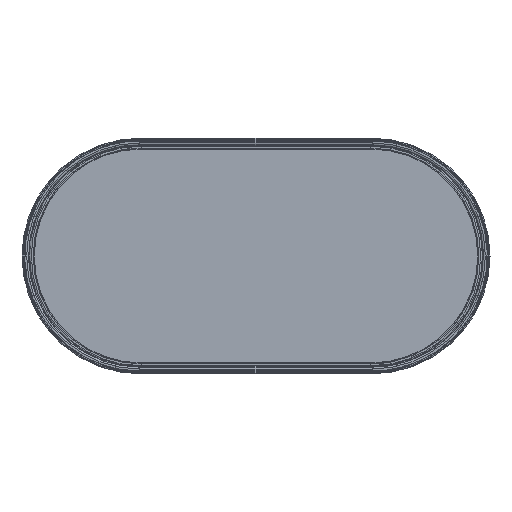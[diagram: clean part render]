
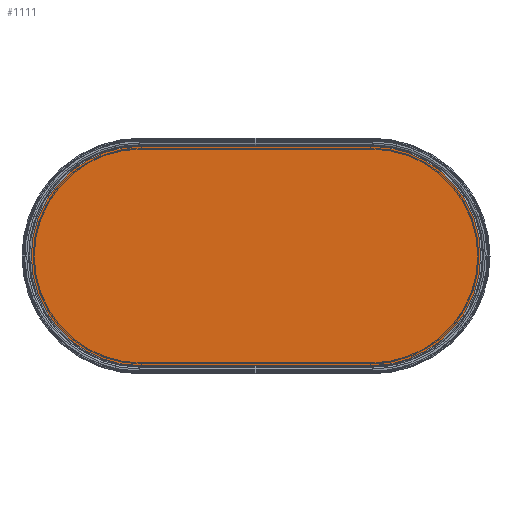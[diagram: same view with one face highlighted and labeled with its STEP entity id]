
A CAD part, front view. The second image highlights one B-rep face of the part: STEP entity #1111.
In plain terms, the highlighted planar face has unit normal (0, -1, 0).
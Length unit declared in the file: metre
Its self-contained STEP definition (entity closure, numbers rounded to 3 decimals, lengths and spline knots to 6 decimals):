
#1111 = ADVANCED_FACE( '', ( #1310 ), #1311, .F. );
#1310 = FACE_OUTER_BOUND( '', #1677, .T. );
#1311 = PLANE( '', #1678 );
#1677 = EDGE_LOOP( '', ( #2333, #2334, #2335, #2336 ) );
#1678 = AXIS2_PLACEMENT_3D( '', #2337, #2338, #2339 );
#2333 = ORIENTED_EDGE( '', *, *, #3154, .F. );
#2334 = ORIENTED_EDGE( '', *, *, #3153, .F. );
#2335 = ORIENTED_EDGE( '', *, *, #3155, .F. );
#2336 = ORIENTED_EDGE( '', *, *, #3156, .F. );
#2337 = CARTESIAN_POINT( '', ( 45.874527, 9.788641, 0.00002 ) );
#2338 = DIRECTION( '', ( 0., 1., 0. ) );
#2339 = DIRECTION( '', ( 0., 0., 1. ) );
#3153 = EDGE_CURVE( '', #3485, #3480, #3487, .T. );
#3154 = EDGE_CURVE( '', #3480, #3488, #3489, .T. );
#3155 = EDGE_CURVE( '', #3490, #3485, #3491, .T. );
#3156 = EDGE_CURVE( '', #3488, #3490, #3492, .T. );
#3480 = VERTEX_POINT( '', #3988 );
#3485 = VERTEX_POINT( '', #3993 );
#3487 = CIRCLE( '', #3995, 0.113324 );
#3488 = VERTEX_POINT( '', #3996 );
#3489 = LINE( '', #3997, #3998 );
#3490 = VERTEX_POINT( '', #3999 );
#3491 = LINE( '', #4000, #4001 );
#3492 = CIRCLE( '', #4002, 0.113324 );
#3988 = CARTESIAN_POINT( '', ( 45.755967, 9.788641, 0.113343 ) );
#3993 = CARTESIAN_POINT( '', ( 45.755967, 9.788641, -0.113304 ) );
#3995 = AXIS2_PLACEMENT_3D( '', #4587, #4588, #4589 );
#3996 = CARTESIAN_POINT( '', ( 45.993087, 9.788641, 0.113343 ) );
#3997 = CARTESIAN_POINT( '', ( 45.755967, 9.788641, 0.113343 ) );
#3998 = VECTOR( '', #4590, 1. );
#3999 = CARTESIAN_POINT( '', ( 45.993087, 9.788641, -0.113304 ) );
#4000 = CARTESIAN_POINT( '', ( 45.993087, 9.788641, -0.113304 ) );
#4001 = VECTOR( '', #4591, 1. );
#4002 = AXIS2_PLACEMENT_3D( '', #4592, #4593, #4594 );
#4587 = CARTESIAN_POINT( '', ( 45.755967, 9.788641, 0.00002 ) );
#4588 = DIRECTION( '', ( 0., 1., 0. ) );
#4589 = DIRECTION( '', ( -1., 0., 0. ) );
#4590 = DIRECTION( '', ( 1., 0., 0. ) );
#4591 = DIRECTION( '', ( -1., 0., 0. ) );
#4592 = CARTESIAN_POINT( '', ( 45.993087, 9.788641, 0.00002 ) );
#4593 = DIRECTION( '', ( 0., 1., 0. ) );
#4594 = DIRECTION( '', ( 1., 0., 0. ) );
